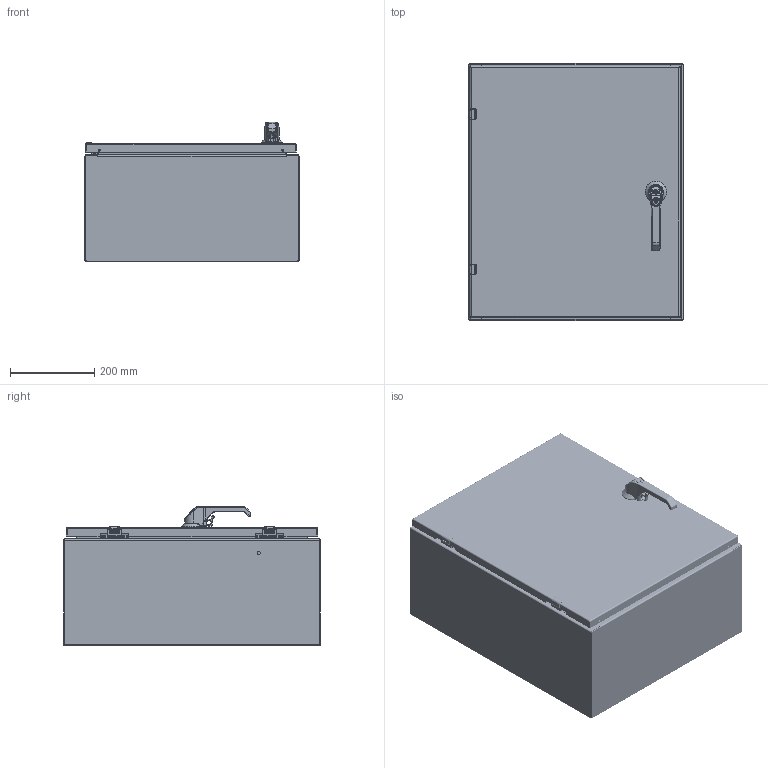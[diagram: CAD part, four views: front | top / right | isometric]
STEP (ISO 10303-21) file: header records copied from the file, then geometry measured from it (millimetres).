
FILE_DESCRIPTION((''),'2;1');
FILE_NAME('MODEL-032_ASM','2022-12-20T15:22:41',('Tony.Gonzales'),('SAGINAW CONTROL & ENGINEERING'),'CREO PARAMETRIC BY PTC INC, 2021284','CREO PARAMETRIC BY PTC INC, 2021284','');
FILE_SCHEMA(('AUTOMOTIVE_DESIGN { 1 0 10303 214 1 1 1 1 }'));
Length unit declared in the file: inch
Products named in the file (50): MODEL-032-BDY; MODEL-032-TP; MODEL-032-BTM; MODEL-032-DR; 100837; 100882; 111541; 100955_HANDLE; 100955_HANDLE_INSERT; 100955_SHAFT_CAM; 100955_ADAPTER_CAM; 100955_NUT_CAM; 100955_BASE; 100955_O-RING; 100955_WASHER_SEALING; 100955_NUT_MOUNTING_LARGE; 100955_NUT_MOUNTING_SMALL; 100955_SCREW_SMALL; 100955_INSERT; 100955_PADLOCK_CATCH; 100955_STOP_CAM; 100955_ASM; 128142; 100030; 128142_ASM; MODEL-032-ROD-UPR; 128146; 128145; 128144; 102482; MODEL-032-ROD-UPR_ASM; 128143; 112504; MODEL-032-ROD-LWR; MODEL-032-ROD-LWR_ASM; MODEL-032-POUR-GSKT; 126391; 126391_ASM; 126393; 102483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
Assembly tree (82 placements, depth 4):
  MODEL-032_ASM
    MODEL-032-BDY
    MODEL-032-TP
    MODEL-032-BTM
    MODEL-032-DOOR-ASSY_ASM
      MODEL-032-DR
      100837  x5
      100882  x4
      111541
      100955_ASM
        100955_HANDLE
        100955_HANDLE_INSERT
        100955_SHAFT_CAM
        100955_ADAPTER_CAM
        100955_NUT_CAM
        100955_BASE
        100955_O-RING
        100955_WASHER_SEALING
        100955_NUT_MOUNTING_LARGE
        100955_NUT_MOUNTING_SMALL
        100955_SCREW_SMALL
        100955_INSERT
        100955_PADLOCK_CATCH
        100955_STOP_CAM
      128142_ASM
        128142
        100030  x2
      MODEL-032-ROD-UPR_ASM
        MODEL-032-ROD-UPR
        128146
        128145
        128144
        102482  x2
      128143  x2
      112504  x2
      MODEL-032-ROD-LWR_ASM
        MODEL-032-ROD-LWR
        128146
        128145
        128144
        102482  x2
      MODEL-032-POUR-GSKT
      126391_ASM  x2
        126391
      126393  x2
      102483  x6
      101376  x2
      101226  x2
      102140  x2
    100837
    101653  x4
    122191
    SUBPANEL-SUBASSEMBLY_ASM
      SUBPANEL
      100904  x4
Bounding box: 508 x 609.6 x 331.43 mm (x, y, z)
Volume: 3786197.6 mm3; surface area: 3436734.8 mm2
Topology: 76 solids, 76 shells, 6251 faces, 15983 edges, 9888 vertices
Faces by surface type: plane 2262, cylinder 1665, bspline 1097, cone 530, torus 489, sphere 208
Entity records: 207538 total; most frequent: CARTESIAN_POINT 72491, ORIENTED_EDGE 20784, DIRECTION 18962, PRESENTATION_STYLE_ASSIGNMENT 10551, STYLED_ITEM 10434, CURVE_STYLE 10392, EDGE_CURVE 10392, AXIS2_PLACEMENT_3D 7095
